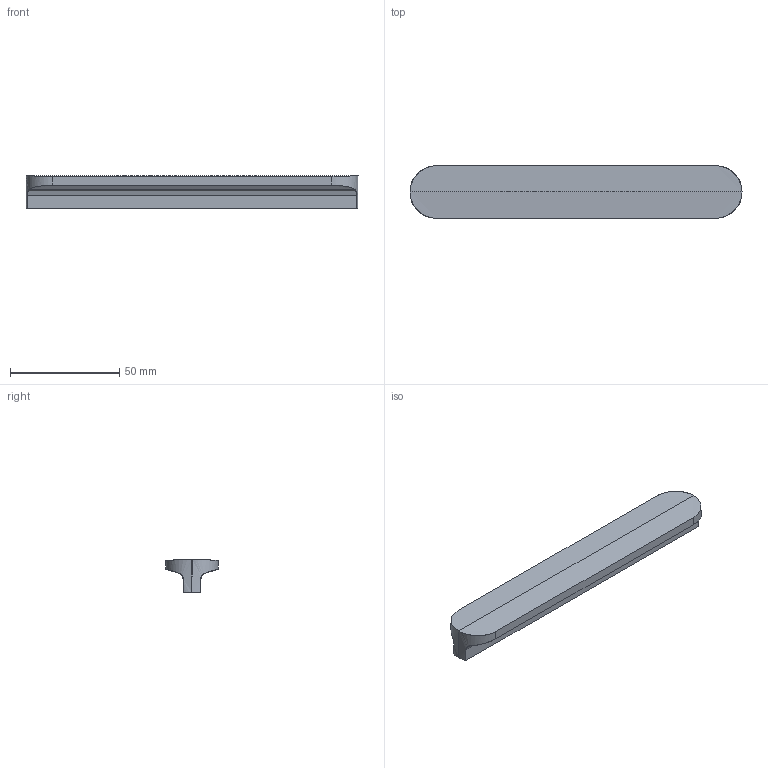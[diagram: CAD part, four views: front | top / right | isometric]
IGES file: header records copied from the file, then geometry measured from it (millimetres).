
Start section: C
Global section: file name: 8341-152.igs; native system: By Siemens PLM Incorporated; preprocessor: XPlus GENERIC/IGES 16.0.42; author: Author; organization: Title; date: 20220504.163616; units: millimetre
Bounding box: 152 x 24 x 15 mm (x, y, z)
Surface area: 11237.9 mm2 (no closed solid volume)
Topology: 0 solids, 0 shells, 18 faces, 90 edges, 90 vertices
Faces by surface type: bspline 18
